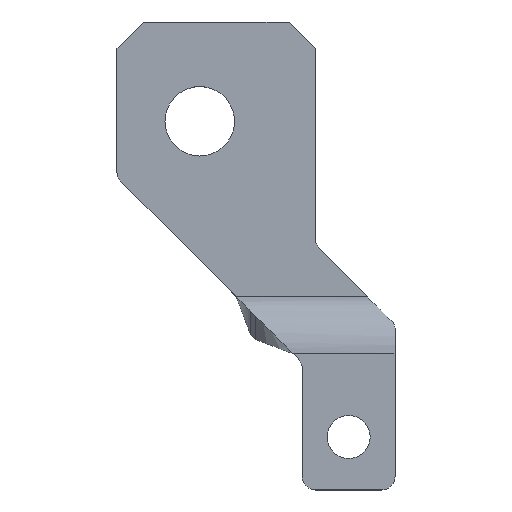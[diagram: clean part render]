
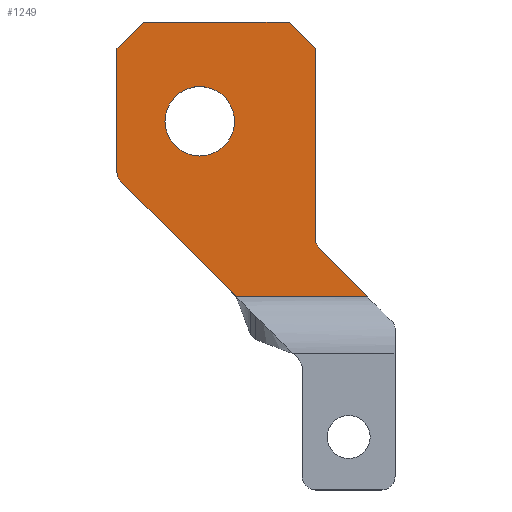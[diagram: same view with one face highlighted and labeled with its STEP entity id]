
A CAD part, top view. The second image highlights one B-rep face of the part: STEP entity #1249.
In plain terms, the highlighted planar face has unit normal (0, 0, 1).
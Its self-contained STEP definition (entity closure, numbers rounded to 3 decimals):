
#1 = EDGE_CURVE ( 'NONE', #621, #709, #1207, .T. ) ;
#5 = CARTESIAN_POINT ( 'NONE',  ( 2., 66.7, 5. ) ) ;
#8 = ORIENTED_EDGE ( 'NONE', *, *, #477, .F. ) ;
#13 = DIRECTION ( 'NONE',  ( 1., 0., 0. ) ) ;
#15 = LINE ( 'NONE', #242, #408 ) ;
#22 = LINE ( 'NONE', #185, #763 ) ;
#54 = DIRECTION ( 'NONE',  ( -0.707, -0.707, 0. ) ) ;
#64 = ORIENTED_EDGE ( 'NONE', *, *, #326, .T. ) ;
#88 = CARTESIAN_POINT ( 'NONE',  ( 2., 70.7, 5. ) ) ;
#99 = DIRECTION ( 'NONE',  ( 0., 0., 1. ) ) ;
#121 = LINE ( 'NONE', #880, #1107 ) ;
#157 = VECTOR ( 'NONE', #956, 1000. ) ;
#162 = VERTEX_POINT ( 'NONE', #474 ) ;
#176 = CIRCLE ( 'NONE', #351, 5.25 ) ;
#185 = CARTESIAN_POINT ( 'NONE',  ( -15.85, 54.85, 5. ) ) ;
#188 = CARTESIAN_POINT ( 'NONE',  ( 2.586, 36.414, 5. ) ) ;
#209 = ORIENTED_EDGE ( 'NONE', *, *, #919, .F. ) ;
#210 = DIRECTION ( 'NONE',  ( 0., 0., -1. ) ) ;
#212 = DIRECTION ( 'NONE',  ( -1., 0., 0. ) ) ;
#213 = DIRECTION ( 'NONE',  ( -0.707, 0.707, 0. ) ) ;
#215 = CARTESIAN_POINT ( 'NONE',  ( -2., 70.7, 5. ) ) ;
#222 = DIRECTION ( 'NONE',  ( -1., 0., 0. ) ) ;
#230 = VERTEX_POINT ( 'NONE', #848 ) ;
#232 = VERTEX_POINT ( 'NONE', #770 ) ;
#242 = CARTESIAN_POINT ( 'NONE',  ( -28., 66.7, 5. ) ) ;
#253 = ORIENTED_EDGE ( 'NONE', *, *, #377, .T. ) ;
#258 = CARTESIAN_POINT ( 'NONE',  ( -28., 70.7, 5. ) ) ;
#267 = EDGE_CURVE ( 'NONE', #797, #162, #121, .T. ) ;
#279 = VERTEX_POINT ( 'NONE', #954 ) ;
#288 = EDGE_CURVE ( 'NONE', #380, #505, #176, .T. ) ;
#295 = CARTESIAN_POINT ( 'NONE',  ( -20.75, 55.7, 5. ) ) ;
#315 = CARTESIAN_POINT ( 'NONE',  ( -28., 47.201, 5. ) ) ;
#326 = EDGE_CURVE ( 'NONE', #468, #230, #595, .T. ) ;
#329 = FACE_OUTER_BOUND ( 'NONE', #525, .T. ) ;
#334 = ORIENTED_EDGE ( 'NONE', *, *, #267, .T. ) ;
#347 = FACE_BOUND ( 'NONE', #1147, .T. ) ;
#351 = AXIS2_PLACEMENT_3D ( 'NONE', #428, #99, #1172 ) ;
#360 = ORIENTED_EDGE ( 'NONE', *, *, #288, .F. ) ;
#365 = CARTESIAN_POINT ( 'NONE',  ( -25.749, 44.951, 5. ) ) ;
#377 = EDGE_CURVE ( 'NONE', #232, #279, #482, .T. ) ;
#380 = VERTEX_POINT ( 'NONE', #869 ) ;
#399 = CARTESIAN_POINT ( 'NONE',  ( 2., 37.828, 5. ) ) ;
#406 = LINE ( 'NONE', #1086, #157 ) ;
#408 = VECTOR ( 'NONE', #54, 1000. ) ;
#428 = CARTESIAN_POINT ( 'NONE',  ( -15.5, 55.7, 5. ) ) ;
#468 = VERTEX_POINT ( 'NONE', #215 ) ;
#469 = ORIENTED_EDGE ( 'NONE', *, *, #1, .T. ) ;
#471 = DIRECTION ( 'NONE',  ( 0., 0., 1. ) ) ;
#474 = CARTESIAN_POINT ( 'NONE',  ( 9.84, 29.16, 5. ) ) ;
#477 = EDGE_CURVE ( 'NONE', #688, #709, #642, .T. ) ;
#482 = CIRCLE ( 'NONE', #1185, 2. ) ;
#505 = VERTEX_POINT ( 'NONE', #295 ) ;
#525 = EDGE_LOOP ( 'NONE', ( #562, #253, #209, #334, #1062, #469, #8, #1262, #64, #906 ) ) ;
#528 = DIRECTION ( 'NONE',  ( 0., 0., 1. ) ) ;
#548 = CIRCLE ( 'NONE', #1068, 5.25 ) ;
#562 = ORIENTED_EDGE ( 'NONE', *, *, #673, .T. ) ;
#565 = DIRECTION ( 'NONE',  ( -1., 0., 0. ) ) ;
#594 = DIRECTION ( 'NONE',  ( 1., 0., 0. ) ) ;
#595 = LINE ( 'NONE', #258, #963 ) ;
#603 = LINE ( 'NONE', #315, #1259 ) ;
#621 = VERTEX_POINT ( 'NONE', #188 ) ;
#625 = ORIENTED_EDGE ( 'NONE', *, *, #886, .F. ) ;
#626 = VERTEX_POINT ( 'NONE', #795 ) ;
#642 = LINE ( 'NONE', #88, #786 ) ;
#649 = EDGE_CURVE ( 'NONE', #621, #162, #22, .T. ) ;
#651 = DIRECTION ( 'NONE',  ( 0.707, -0.707, 0. ) ) ;
#668 = PLANE ( 'NONE',  #1315 ) ;
#673 = EDGE_CURVE ( 'NONE', #626, #232, #603, .T. ) ;
#688 = VERTEX_POINT ( 'NONE', #5 ) ;
#707 = VECTOR ( 'NONE', #213, 1000. ) ;
#709 = VERTEX_POINT ( 'NONE', #399 ) ;
#758 = DIRECTION ( 'NONE',  ( 0., 0., -1. ) ) ;
#763 = VECTOR ( 'NONE', #651, 1000. ) ;
#770 = CARTESIAN_POINT ( 'NONE',  ( -28., 48.029, 5. ) ) ;
#786 = VECTOR ( 'NONE', #1269, 1000. ) ;
#795 = CARTESIAN_POINT ( 'NONE',  ( -28., 66.7, 5. ) ) ;
#797 = VERTEX_POINT ( 'NONE', #908 ) ;
#816 = CARTESIAN_POINT ( 'NONE',  ( 4., 37.828, 5. ) ) ;
#843 = EDGE_CURVE ( 'NONE', #688, #468, #406, .T. ) ;
#848 = CARTESIAN_POINT ( 'NONE',  ( -24., 70.7, 5. ) ) ;
#869 = CARTESIAN_POINT ( 'NONE',  ( -10.25, 55.7, 5. ) ) ;
#880 = CARTESIAN_POINT ( 'NONE',  ( 0., 29.16, 5. ) ) ;
#886 = EDGE_CURVE ( 'NONE', #505, #380, #548, .T. ) ;
#906 = ORIENTED_EDGE ( 'NONE', *, *, #1302, .T. ) ;
#908 = CARTESIAN_POINT ( 'NONE',  ( -9.959, 29.16, 5. ) ) ;
#919 = EDGE_CURVE ( 'NONE', #797, #279, #935, .T. ) ;
#935 = LINE ( 'NONE', #365, #707 ) ;
#954 = CARTESIAN_POINT ( 'NONE',  ( -27.414, 46.615, 5. ) ) ;
#955 = DIRECTION ( 'NONE',  ( -1., 0., 0. ) ) ;
#956 = DIRECTION ( 'NONE',  ( -0.707, 0.707, 0. ) ) ;
#957 = CARTESIAN_POINT ( 'NONE',  ( -15.5, 55.7, 5. ) ) ;
#963 = VECTOR ( 'NONE', #212, 1000. ) ;
#987 = AXIS2_PLACEMENT_3D ( 'NONE', #816, #210, #955 ) ;
#1062 = ORIENTED_EDGE ( 'NONE', *, *, #649, .F. ) ;
#1068 = AXIS2_PLACEMENT_3D ( 'NONE', #957, #471, #13 ) ;
#1086 = CARTESIAN_POINT ( 'NONE',  ( -2., 70.7, 5. ) ) ;
#1097 = DIRECTION ( 'NONE',  ( 0., -1., 0. ) ) ;
#1107 = VECTOR ( 'NONE', #594, 1000. ) ;
#1146 = CARTESIAN_POINT ( 'NONE',  ( -26., 48.029, 5. ) ) ;
#1147 = EDGE_LOOP ( 'NONE', ( #625, #360 ) ) ;
#1172 = DIRECTION ( 'NONE',  ( 1., 0., 0. ) ) ;
#1185 = AXIS2_PLACEMENT_3D ( 'NONE', #1146, #528, #565 ) ;
#1207 = CIRCLE ( 'NONE', #987, 2. ) ;
#1249 = ADVANCED_FACE ( 'NONE', ( #347, #329 ), #668, .F. ) ;
#1259 = VECTOR ( 'NONE', #1097, 1000. ) ;
#1262 = ORIENTED_EDGE ( 'NONE', *, *, #843, .T. ) ;
#1269 = DIRECTION ( 'NONE',  ( 0., -1., 0. ) ) ;
#1275 = CARTESIAN_POINT ( 'NONE',  ( 0., 70.7, 5. ) ) ;
#1302 = EDGE_CURVE ( 'NONE', #230, #626, #15, .T. ) ;
#1315 = AXIS2_PLACEMENT_3D ( 'NONE', #1275, #758, #222 ) ;
